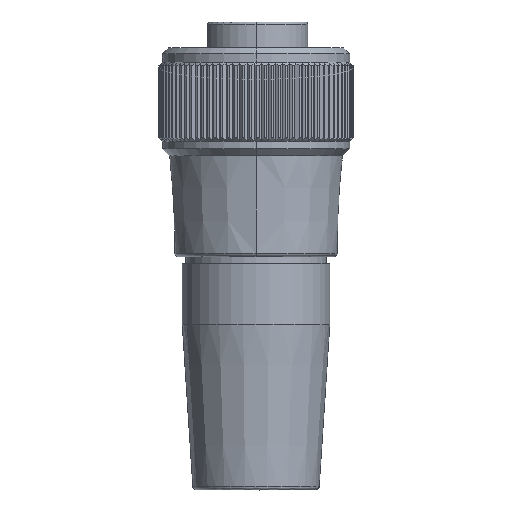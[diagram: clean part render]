
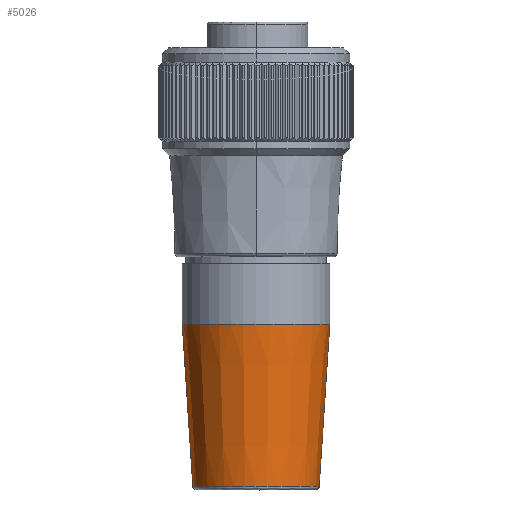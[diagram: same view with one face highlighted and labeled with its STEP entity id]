
A CAD part, top view. The second image highlights one B-rep face of the part: STEP entity #5026.
In plain terms, the highlighted conical face has half-angle 3.731 degrees and reference radius 10.25 mm.
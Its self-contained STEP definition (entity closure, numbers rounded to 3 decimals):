
#149 = AXIS2_PLACEMENT_3D ( 'NONE', #4520, #10200, #5334 ) ;
#420 = CIRCLE ( 'NONE', #149, 10.25 ) ;
#437 = VERTEX_POINT ( 'NONE', #898 ) ;
#898 = CARTESIAN_POINT ( 'NONE',  ( 8.78, -26.783, 0. ) ) ;
#1040 = AXIS2_PLACEMENT_3D ( 'NONE', #8665, #7871, #7020 ) ;
#1176 = EDGE_CURVE ( 'NONE', #10396, #6738, #1658, .T. ) ;
#1186 = DIRECTION ( 'NONE',  ( 0.065, 0.998, 0. ) ) ;
#1330 = CARTESIAN_POINT ( 'NONE',  ( -10.25, -4.25, 0. ) ) ;
#1658 = LINE ( 'NONE', #5038, #7884 ) ;
#2441 = CARTESIAN_POINT ( 'NONE',  ( 10.25, -4.25, 0. ) ) ;
#2489 = ORIENTED_EDGE ( 'NONE', *, *, #4364, .T. ) ;
#3326 = CARTESIAN_POINT ( 'NONE',  ( -8.78, -26.783, 0. ) ) ;
#4292 = DIRECTION ( 'NONE',  ( 0., -1., 0. ) ) ;
#4355 = AXIS2_PLACEMENT_3D ( 'NONE', #9160, #4292, #9972 ) ;
#4364 = EDGE_CURVE ( 'NONE', #437, #4683, #7283, .T. ) ;
#4520 = CARTESIAN_POINT ( 'NONE',  ( 0., -4.25, 0. ) ) ;
#4683 = VERTEX_POINT ( 'NONE', #2441 ) ;
#4960 = FACE_OUTER_BOUND ( 'NONE', #6858, .T. ) ;
#5026 = ADVANCED_FACE ( 'NONE', ( #4960 ), #6861, .T. ) ;
#5038 = CARTESIAN_POINT ( 'NONE',  ( -10.25, -4.25, 0. ) ) ;
#5334 = DIRECTION ( 'NONE',  ( 1., 0., 0. ) ) ;
#6738 = VERTEX_POINT ( 'NONE', #1330 ) ;
#6858 = EDGE_LOOP ( 'NONE', ( #8420, #2489, #9961, #9559 ) ) ;
#6861 = CONICAL_SURFACE ( 'NONE', #1040, 10.25, 0.065 ) ;
#7020 = DIRECTION ( 'NONE',  ( -1., 0., 0. ) ) ;
#7283 = LINE ( 'NONE', #10093, #9446 ) ;
#7531 = CIRCLE ( 'NONE', #4355, 8.78 ) ;
#7771 = EDGE_CURVE ( 'NONE', #4683, #6738, #420, .T. ) ;
#7871 = DIRECTION ( 'NONE',  ( 0., 1., 0. ) ) ;
#7884 = VECTOR ( 'NONE', #9911, 1000. ) ;
#8420 = ORIENTED_EDGE ( 'NONE', *, *, #9188, .F. ) ;
#8665 = CARTESIAN_POINT ( 'NONE',  ( 0., -4.25, 0. ) ) ;
#9160 = CARTESIAN_POINT ( 'NONE',  ( 0., -26.783, 0. ) ) ;
#9188 = EDGE_CURVE ( 'NONE', #437, #10396, #7531, .T. ) ;
#9446 = VECTOR ( 'NONE', #1186, 1000. ) ;
#9559 = ORIENTED_EDGE ( 'NONE', *, *, #1176, .F. ) ;
#9911 = DIRECTION ( 'NONE',  ( -0.065, 0.998, 0. ) ) ;
#9961 = ORIENTED_EDGE ( 'NONE', *, *, #7771, .T. ) ;
#9972 = DIRECTION ( 'NONE',  ( 1., 0., 0. ) ) ;
#10093 = CARTESIAN_POINT ( 'NONE',  ( 10.25, -4.25, 0. ) ) ;
#10200 = DIRECTION ( 'NONE',  ( 0., -1., 0. ) ) ;
#10396 = VERTEX_POINT ( 'NONE', #3326 ) ;
